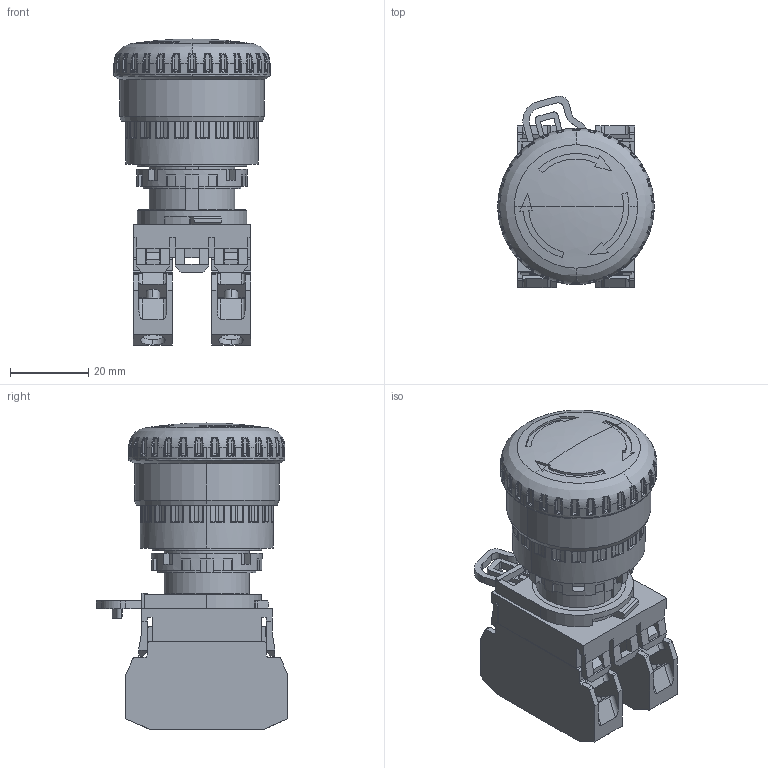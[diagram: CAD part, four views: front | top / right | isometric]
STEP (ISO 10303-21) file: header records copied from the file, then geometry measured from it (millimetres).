
FILE_DESCRIPTION (( 'STEP AP214' ), '1' );
FILE_NAME ('OUTSIDE-YW1B-V4E02R.STEP', '2015-08-31T06:53:41', ( '' ), ( '' ), 'SwSTEP 2.0', 'SolidWorks 2012', '' );
FILE_SCHEMA (( 'AUTOMOTIVE_DESIGN' ));
Length unit declared in the file: millimetre
Products named in the file (5): OUTSIDE-FW-LOCK-NUT; OUTSIDE-YW-E仩仩; OUTSIDE-YW-CN; OUTSIDE-YW1B-V4-BODY; OUTSIDE-YW1B-V4E02R
Assembly tree (5 placements, depth 2):
  OUTSIDE-YW1B-V4E02R
    OUTSIDE-YW1B-V4-BODY
    OUTSIDE-YW-CN
    OUTSIDE-YW-E仩仩  x2
    OUTSIDE-FW-LOCK-NUT
Bounding box: 40 x 48.98 x 78.3 mm (x, y, z)
Volume: 65456.2 mm3; surface area: 23022.6 mm2
Topology: 5 solids, 5 shells, 1669 faces, 4531 edges, 2663 vertices
Faces by surface type: plane 667, bspline 522, cylinder 453, cone 27
Entity records: 59415 total; most frequent: CARTESIAN_POINT 26010, ORIENTED_EDGE 7484, DIRECTION 5945, EDGE_CURVE 3742, VERTEX_POINT 2277, AXIS2_PLACEMENT_3D 2113, VECTOR 1719, LINE 1719
